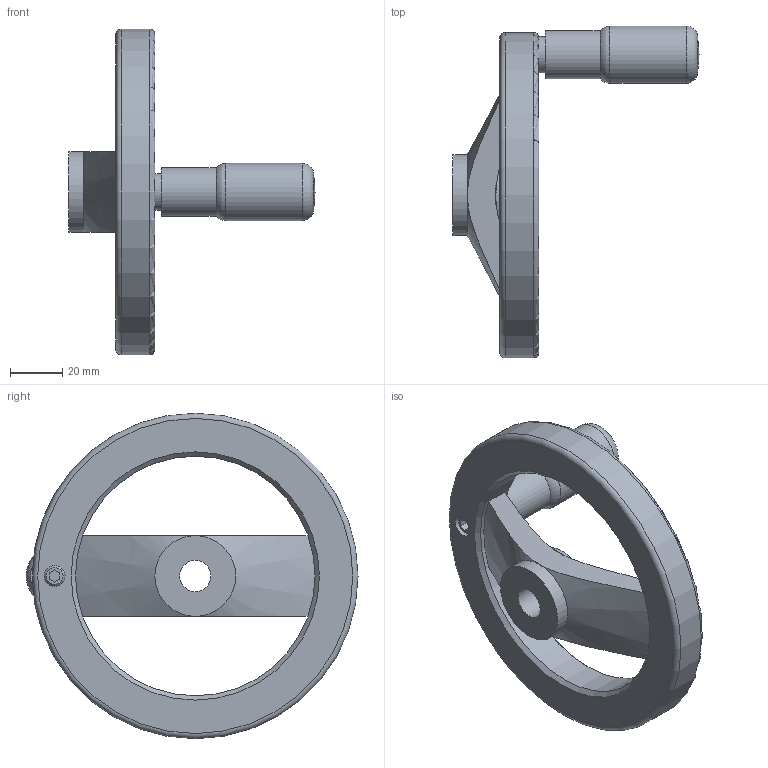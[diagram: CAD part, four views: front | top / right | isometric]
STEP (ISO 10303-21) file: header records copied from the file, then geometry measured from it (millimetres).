
FILE_DESCRIPTION( ( 'STEP AP203' ), '1' );
FILE_NAME( 'C:/Temp/Ganter_Step_05_03_2020/data/1_3/gn_324/gn_324_b/gn_324_b_d/Handwheel, matt black GN 324-125-B12-R.stp', '2020-03-05T10:32:55', ( 'License CC BY-ND 4.0' ), ( 'CADENAS' ), ' ', 'PARTsolutions', ' ' );
FILE_SCHEMA( ( 'CONFIG_CONTROL_DESIGN' ) );
Length unit declared in the file: millimetre
Products named in the file (1): _Handwheel, matt black GN 324-125-B12-R
Bounding box: 94.5 x 127.5 x 125 mm (x, y, z)
Volume: 134427.4 mm3; surface area: 33117.5 mm2
Topology: 1 solids, 2 shells, 41 faces, 92 edges, 55 vertices
Faces by surface type: plane 17, cylinder 11, cone 8, torus 4, sphere 1
Full cylindrical faces by diameter (mm): 6.446 x1, 8 x2, 12 x1, 14 x1, 18.5 x1, 22 x1, 31 x2, 92 x1, 125 x1
Entity records: 1172 total; most frequent: CARTESIAN_POINT 300, DIRECTION 180, ORIENTED_EDGE 134, AXIS2_PLACEMENT_3D 79, EDGE_LOOP 69, EDGE_CURVE 67, FACE_OUTER_BOUND 56, VERTEX_POINT 51
